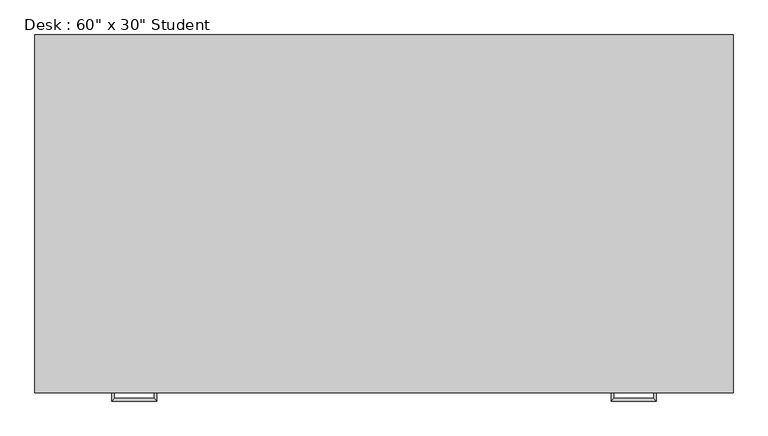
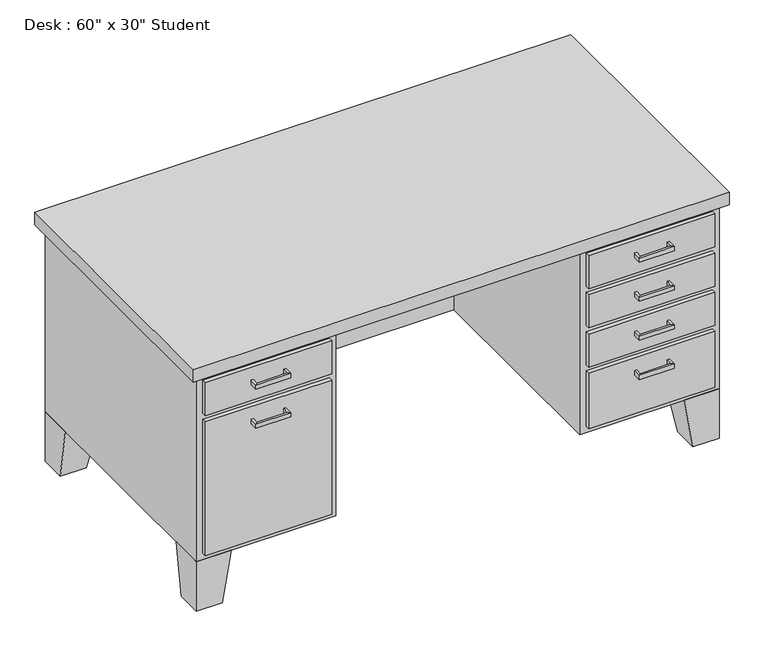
"""IFC4 building model written with IfcOpenShell, lengths in millimetres: furniture geometry."""

from ifc_helpers import new_model, si_unit, frame, origin, place, context, project, spatial, polyline, outline, extrude, faceted_brep, source, transform, mapped, element, save


def furniture_013ab306(model_context):
    return source(origin(), model_context, "Body", "SolidModel", [
        extrude(outline(polyline([(19.05, 0.0), (387.35, 0.0), (387.35, -12.7), (19.05, -12.7), (19.05, 0.0)])), frame((0.0, 0.0, 603.25), z_axis=(0.0, 0.0, 1.0), x_axis=(1.0, 0.0, 0.0)), (0.0, 0.0, 1.0), 101.6),
        extrude(outline(polyline([(19.05, 0.0), (387.35, 0.0), (387.35, -12.7), (19.05, -12.7), (19.05, 0.0)])), frame((0.0, 0.0, 171.45), z_axis=(0.0, 0.0, 1.0), x_axis=(1.0, 0.0, 0.0)), (0.0, 0.0, 1.0), 412.75),
        extrude(outline(polyline([(1136.65, 0.0), (1504.95, 0.0), (1504.95, -12.7), (1136.65, -12.7), (1136.65, 0.0)])), frame((0.0, 0.0, 603.25), z_axis=(0.0, 0.0, 1.0), x_axis=(1.0, 0.0, 0.0)), (0.0, 0.0, 1.0), 101.6),
        extrude(outline(polyline([(1136.65, 0.0), (1504.95, 0.0), (1504.95, -12.7), (1136.65, -12.7), (1136.65, 0.0)])), frame((0.0, 0.0, 171.45), z_axis=(0.0, 0.0, 1.0), x_axis=(1.0, 0.0, 0.0)), (0.0, 0.0, 1.0), 171.45),
        extrude(outline(polyline([(1136.65, 0.0), (1504.95, 0.0), (1504.95, -12.7), (1136.65, -12.7), (1136.65, 0.0)])), frame((0.0, 0.0, 482.6), z_axis=(0.0, 0.0, 1.0), x_axis=(1.0, 0.0, 0.0)), (0.0, 0.0, 1.0), 101.6),
        extrude(outline(polyline([(1136.65, 0.0), (1504.95, 0.0), (1504.95, -12.7), (1136.65, -12.7), (1136.65, 0.0)])), frame((0.0, 0.0, 361.95), z_axis=(0.0, 0.0, 1.0), x_axis=(1.0, 0.0, 0.0)), (0.0, 0.0, 1.0), 101.6),
        faceted_brep([(101.6, 0.0, 152.4), (101.6, 101.6, 152.4), (0.0, 101.6, 152.4), (0.0, 0.0, 152.4), (76.2, 0.0, 0.0), (0.0, 0.0, 0.0), (0.0, 76.2, 0.0), (76.2, 76.2, 0.0)], [[[0, 1, 2, 3]], [[4, 5, 6, 7]], [[4, 7, 1, 0]], [[7, 6, 2, 1]], [[6, 5, 3, 2]], [[5, 4, 0, 3]]]),
        faceted_brep([(101.6, 762.0, 152.4), (0.0, 762.0, 152.4), (0.0, 660.4, 152.4), (101.6, 660.4, 152.4), (76.2, 762.0, 0.0), (76.2, 685.8, 0.0), (0.0, 685.8, 0.0), (0.0, 762.0, 0.0)], [[[0, 1, 2, 3]], [[4, 5, 6, 7]], [[4, 7, 1, 0]], [[7, 6, 2, 1]], [[6, 5, 3, 2]], [[5, 4, 0, 3]]]),
        faceted_brep([(1422.4, 762.0, 152.4), (1422.4, 660.4, 152.4), (1524.0, 660.4, 152.4), (1524.0, 762.0, 152.4), (1447.8, 762.0, 0.0), (1524.0, 762.0, 0.0), (1524.0, 685.8, 0.0), (1447.8, 685.8, 0.0)], [[[0, 1, 2, 3]], [[4, 5, 6, 7]], [[4, 7, 1, 0]], [[7, 6, 2, 1]], [[6, 5, 3, 2]], [[5, 4, 0, 3]]]),
        faceted_brep([(1422.4, 0.0, 152.4), (1524.0, 0.0, 152.4), (1524.0, 101.6, 152.4), (1422.4, 101.6, 152.4), (1447.8, 0.0, 0.0), (1447.8, 76.2, 0.0), (1524.0, 76.2, 0.0), (1524.0, 0.0, 0.0)], [[[0, 1, 2, 3]], [[4, 5, 6, 7]], [[4, 7, 1, 0]], [[7, 6, 2, 1]], [[6, 5, 3, 2]], [[5, 4, 0, 3]]]),
        extrude(outline(polyline([(-19.05, -19.05), (-19.05, 781.05), (1543.05, 781.05), (1543.05, -19.05), (-19.05, -19.05)])), frame((0.0, 0.0, 723.9), z_axis=(0.0, 0.0, 1.0), x_axis=(1.0, 0.0, 0.0)), (0.0, 0.0, 1.0), 38.1),
        extrude(outline(polyline([(1117.6, 0.0), (1117.6, 635.0), (406.4, 635.0), (406.4, 0.0), (0.0, 0.0), (0.0, 762.0), (1524.0, 762.0), (1524.0, 0.0), (1117.6, 0.0)])), frame((0.0, 0.0, 152.4), z_axis=(0.0, 0.0, 1.0), x_axis=(1.0, 0.0, 0.0)), (0.0, 0.0, 1.0), 571.5),
        faceted_brep([(158.75, -12.7, 546.1), (158.75, -12.7, 533.4), (152.4, -12.7, 533.4), (152.4, -12.7, 546.1), (158.75, -31.75, 546.1), (158.75, -31.75, 533.4), (152.4, -38.1, 533.4), (152.4, -38.1, 546.1), (247.65, -31.75, 546.1), (247.65, -31.75, 533.4), (254.0, -38.1, 533.4), (254.0, -38.1, 546.1), (247.65, -12.7, 546.1), (254.0, -12.7, 546.1), (254.0, -12.7, 533.4), (247.65, -12.7, 533.4)], [[[0, 1, 2, 3]], [[1, 0, 4, 5]], [[2, 1, 5, 6]], [[3, 2, 6, 7]], [[0, 3, 7, 4]], [[5, 4, 8, 9]], [[6, 5, 9, 10]], [[7, 6, 10, 11]], [[4, 7, 11, 8]], [[12, 13, 14, 15]], [[9, 8, 12, 15]], [[10, 9, 15, 14]], [[11, 10, 14, 13]], [[8, 11, 13, 12]]]),
        faceted_brep([(158.75, -12.7, 666.75), (158.75, -12.7, 654.05), (152.4, -12.7, 654.05), (152.4, -12.7, 666.75), (158.75, -31.75, 666.75), (158.75, -31.75, 654.05), (152.4, -38.1, 654.05), (152.4, -38.1, 666.75), (247.65, -31.75, 666.75), (247.65, -31.75, 654.05), (254.0, -38.1, 654.05), (254.0, -38.1, 666.75), (247.65, -12.7, 666.75), (254.0, -12.7, 666.75), (254.0, -12.7, 654.05), (247.65, -12.7, 654.05)], [[[0, 1, 2, 3]], [[1, 0, 4, 5]], [[2, 1, 5, 6]], [[3, 2, 6, 7]], [[0, 3, 7, 4]], [[5, 4, 8, 9]], [[6, 5, 9, 10]], [[7, 6, 10, 11]], [[4, 7, 11, 8]], [[12, 13, 14, 15]], [[9, 8, 12, 15]], [[10, 9, 15, 14]], [[11, 10, 14, 13]], [[8, 11, 13, 12]]]),
        faceted_brep([(1365.25, -12.7, 304.8), (1371.6, -12.7, 304.8), (1371.6, -12.7, 292.1), (1365.25, -12.7, 292.1), (1365.25, -31.75, 304.8), (1371.6, -38.1, 304.8), (1371.6, -38.1, 292.1), (1365.25, -31.75, 292.1), (1276.35, -31.75, 304.8), (1270.0, -38.1, 304.8), (1270.0, -38.1, 292.1), (1276.35, -31.75, 292.1), (1276.35, -12.7, 304.8), (1276.35, -12.7, 292.1), (1270.0, -12.7, 292.1), (1270.0, -12.7, 304.8)], [[[0, 1, 2, 3]], [[1, 0, 4, 5]], [[2, 1, 5, 6]], [[3, 2, 6, 7]], [[0, 3, 7, 4]], [[5, 4, 8, 9]], [[6, 5, 9, 10]], [[7, 6, 10, 11]], [[4, 7, 11, 8]], [[12, 13, 14, 15]], [[9, 8, 12, 15]], [[10, 9, 15, 14]], [[11, 10, 14, 13]], [[8, 11, 13, 12]]]),
        faceted_brep([(1365.25, -12.7, 425.45), (1371.6, -12.7, 425.45), (1371.6, -12.7, 412.75), (1365.25, -12.7, 412.75), (1365.25, -31.75, 425.45), (1371.6, -38.1, 425.45), (1371.6, -38.1, 412.75), (1365.25, -31.75, 412.75), (1276.35, -31.75, 425.45), (1270.0, -38.1, 425.45), (1270.0, -38.1, 412.75), (1276.35, -31.75, 412.75), (1276.35, -12.7, 425.45), (1276.35, -12.7, 412.75), (1270.0, -12.7, 412.75), (1270.0, -12.7, 425.45)], [[[0, 1, 2, 3]], [[1, 0, 4, 5]], [[2, 1, 5, 6]], [[3, 2, 6, 7]], [[0, 3, 7, 4]], [[5, 4, 8, 9]], [[6, 5, 9, 10]], [[7, 6, 10, 11]], [[4, 7, 11, 8]], [[12, 13, 14, 15]], [[9, 8, 12, 15]], [[10, 9, 15, 14]], [[11, 10, 14, 13]], [[8, 11, 13, 12]]]),
        faceted_brep([(1365.25, -12.7, 546.1), (1371.6, -12.7, 546.1), (1371.6, -12.7, 533.4), (1365.25, -12.7, 533.4), (1365.25, -31.75, 546.1), (1371.6, -38.1, 546.1), (1371.6, -38.1, 533.4), (1365.25, -31.75, 533.4), (1276.35, -31.75, 546.1), (1270.0, -38.1, 546.1), (1270.0, -38.1, 533.4), (1276.35, -31.75, 533.4), (1276.35, -12.7, 546.1), (1276.35, -12.7, 533.4), (1270.0, -12.7, 533.4), (1270.0, -12.7, 546.1)], [[[0, 1, 2, 3]], [[1, 0, 4, 5]], [[2, 1, 5, 6]], [[3, 2, 6, 7]], [[0, 3, 7, 4]], [[5, 4, 8, 9]], [[6, 5, 9, 10]], [[7, 6, 10, 11]], [[4, 7, 11, 8]], [[12, 13, 14, 15]], [[9, 8, 12, 15]], [[10, 9, 15, 14]], [[11, 10, 14, 13]], [[8, 11, 13, 12]]]),
        faceted_brep([(1365.25, -12.7, 666.75), (1371.6, -12.7, 666.75), (1371.6, -12.7, 654.05), (1365.25, -12.7, 654.05), (1365.25, -31.75, 666.75), (1371.6, -38.1, 666.75), (1371.6, -38.1, 654.05), (1365.25, -31.75, 654.05), (1276.35, -31.75, 666.75), (1270.0, -38.1, 666.75), (1270.0, -38.1, 654.05), (1276.35, -31.75, 654.05), (1276.35, -12.7, 666.75), (1276.35, -12.7, 654.05), (1270.0, -12.7, 654.05), (1270.0, -12.7, 666.75)], [[[0, 1, 2, 3]], [[1, 0, 4, 5]], [[2, 1, 5, 6]], [[3, 2, 6, 7]], [[0, 3, 7, 4]], [[5, 4, 8, 9]], [[6, 5, 9, 10]], [[7, 6, 10, 11]], [[4, 7, 11, 8]], [[12, 13, 14, 15]], [[9, 8, 12, 15]], [[10, 9, 15, 14]], [[11, 10, 14, 13]], [[8, 11, 13, 12]]]),
    ])


if __name__ == "__main__":
    model = new_model("IFC4")
    model_context = context("Model", 3, world=origin())
    ifc_project = project(units=[si_unit("LENGTHUNIT", "METRE", prefix="MILLI")], contexts=[model_context])
    site = spatial("IfcSite", under=ifc_project)
    building = spatial("IfcBuilding", under=site)
    placement = place(None, origin())
    furniture_shape = furniture_013ab306(model_context)
    element("IfcFurniture", 1, ObjectType="Desk : 60\" x 30\" Student", at=placement, inside=building, context=model_context, shape_type="MappedRepresentation", body=[
        mapped(furniture_shape, transform((0.0, 0.0, 0.0), x_axis=(1.0, 0.0, 0.0), y_axis=(0.0, 1.0, 0.0), z_axis=(0.0, 0.0, 1.0))),
    ])
    save(model, "model.ifc")
